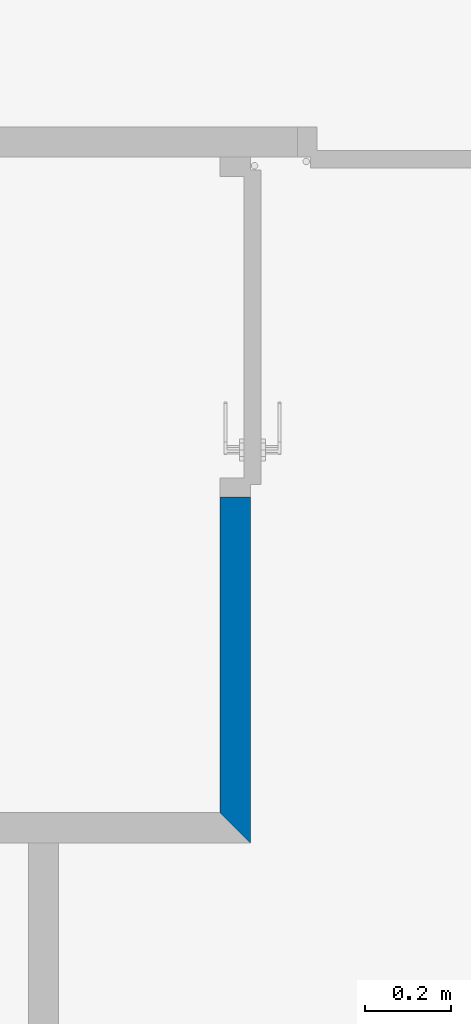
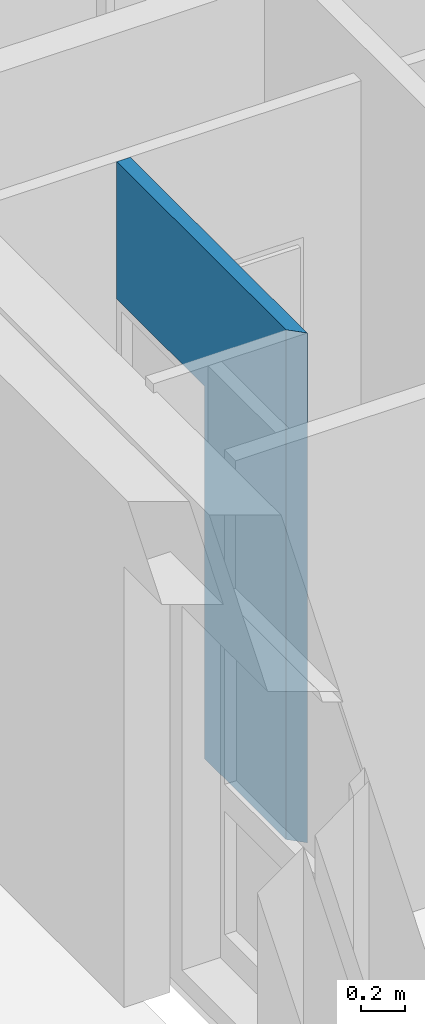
# One storey, part 3 of 45: 1 wall, 1 opening.
"""IFC2X3 building model written with IfcOpenShell, lengths in metres."""

from ifc_helpers import new_model, entity, si_unit, converted_unit, money_unit, direction, frame, origin_with_axes, place, context, subcontext, project, spatial, polyline, outline, extrude, material, layer, layer_set, layer_usage, type_object, element, save


model = new_model("IFC2X3")

# Units and contexts
model_context = context("Model", 3, precision=1e-05, world=origin_with_axes(), true_north=direction((0.0, 1.0)))
body_context = subcontext(model_context, "Body", "Model", "MODEL_VIEW")
ifc_project = project(units=[si_unit("LENGTHUNIT", "METRE"), si_unit("AREAUNIT", "SQUARE_METRE"), si_unit("VOLUMEUNIT", "CUBIC_METRE"), converted_unit("PLANEANGLEUNIT", "DEGREE", entity("IfcPlaneAngleMeasure", 0.0174532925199), si_unit("PLANEANGLEUNIT", "RADIAN"), dimensions=[0, 0, 0, 0, 0, 0, 0]), si_unit("SOLIDANGLEUNIT", "STERADIAN"), money_unit("EUR"), converted_unit("TIMEUNIT", "Year", entity("IfcTimeMeasure", 31556926.0), si_unit("TIMEUNIT", "SECOND"), dimensions=[0, 0, 0, 0, 0, 0, 0]), si_unit("MASSUNIT", "GRAM"), si_unit("THERMODYNAMICTEMPERATUREUNIT", "DEGREE_CELSIUS"), si_unit("LUMINOUSINTENSITYUNIT", "LUMEN")], contexts=[model_context])

# Site, building, storey
site_placement = place(None, origin_with_axes())
site = spatial("IfcSite", under=ifc_project, at=site_placement, Name="Site", CompositionType="ELEMENT")
building_placement = place(site_placement, origin_with_axes())
building = spatial("IfcBuilding", under=site, at=building_placement, Name="Bâtiment", CompositionType="ELEMENT")
storey_placement = place(building_placement, origin_with_axes())
storey = spatial("IfcBuildingStorey", under=building, at=storey_placement, Name="NIVEAU BAS GYMNASE", CompositionType="ELEMENT", Elevation=0.0)

# Wall, opening
ifc_material = material(Name="Hachure solide* 3962059836")
ifc_layer = layer(ifc_material, 0.07, ventilated="UNKNOWN")
ifc_layer_set = layer_set([ifc_layer], Name="Hachure solide* 3962059836 0.07")
ifc_layer_usage = layer_usage(ifc_layer_set, "AXIS2", "POSITIVE", 0.0)
wall_type = type_object("IfcWallType", Name="Hachure solide* 3962059836 70", PredefinedType="NOTDEFINED")
wall_placement = place(storey_placement, frame((46.538457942, 10.7156830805, 0.0), z_axis=(0.0, 0.0, 1.0), x_axis=(0.0, 1.0, 0.0)))
wall = element("IfcWallStandardCase", 1, at=wall_placement, inside=storey, type_object=wall_type, material=ifc_layer_usage, Name="Mur-004", context=body_context, shape_type="SweptSolid", body=[
    extrude(outline(polyline([(-0.07, 0.0), (1.5231326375, 0.0), (1.5231326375, 0.07), (0.0, 0.07), (-0.07, 0.0)])), origin_with_axes(), (0.0, 0.0, 1.0), 2.8),
])
opening_placement = place(wall_placement, frame((1.12813264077, 0.0, -0.01), z_axis=(0.0, 0.0, 1.0), x_axis=(1.0, 0.0, 0.0)))
element("IfcOpeningElement", 2, at=opening_placement, cuts=wall, Name="Por-019", context=body_context, shape_type="SweptSolid", body=[
    extrude(outline(polyline([(0.395, 0.0), (-0.395, 0.0), (-0.395, -2.055), (0.395, -2.055), (0.395, 0.0)])), frame((0.0, 0.14, 0.0), z_axis=(0.0, -1.0, 0.0), x_axis=(-1.0, 0.0, 0.0)), (0.0, 0.0, 1.0), 0.14),
])

save(model, "model.ifc")
